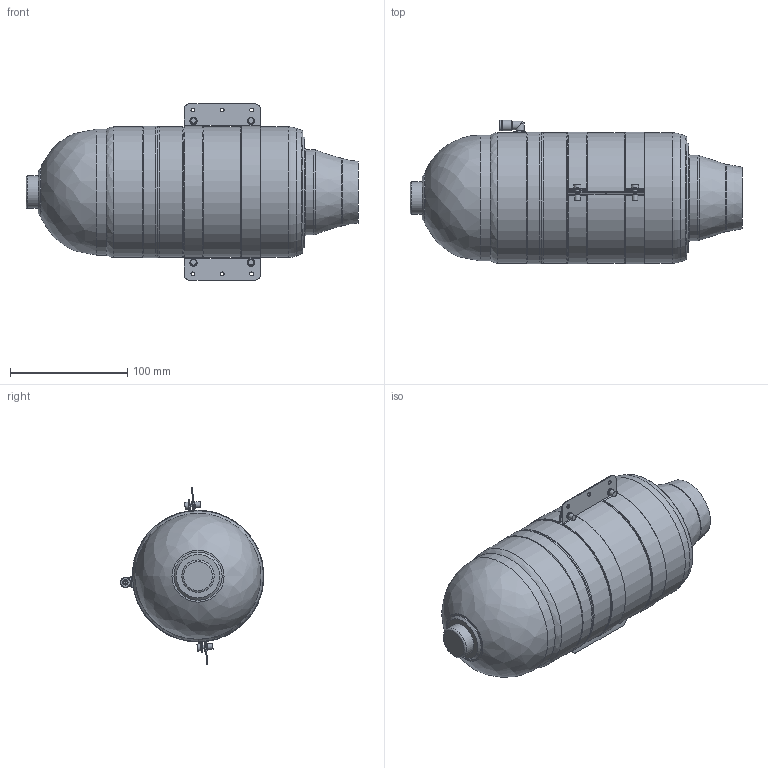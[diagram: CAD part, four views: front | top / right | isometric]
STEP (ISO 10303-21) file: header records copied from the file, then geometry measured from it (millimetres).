
FILE_DESCRIPTION(/* description */ (''),/* implementation_level */ '2;1');
FILE_NAME(/* name */ 'H20Pro1003_Obalka.step',/* time_stamp */ '2026-02-01T19:45:40+01:00',/* author */ (''),/* organization */ (''),/* preprocessor_version */ 'ST-DEVELOPER v20.1',/* originating_system */ 'Autodesk Translation Framework v14.24.0.0',/* authorisation */ '');
FILE_SCHEMA (('AUTOMOTIVE_DESIGN { 1 0 10303 214 3 1 1 }'));
Length unit declared in the file: millimetre
Products named in the file (1): 11-00-1003_motor_ATT75-H20
Bounding box: 282.69 x 122.25 x 150.18 mm (x, y, z)
Volume: 2179290.9 mm3; surface area: 106055.8 mm2
Topology: 1 solids, 1 shells, 195 faces, 483 edges, 311 vertices
Faces by surface type: cylinder 82, plane 66, cone 22, torus 20, bspline 4, sphere 1
Full cylindrical faces by diameter (mm): 3 x2, 3.2 x6, 3.5 x4, 4 x1, 4.8 x1, 4.83 x4, 6 x4, 6.2 x4, 6.83 x4, 7 x4, 7.2 x2, 9 x2, 27.6 x1, 41.047 x1, 72.6 x1, 107.065 x1, 110.7 x2, 111.165 x1, 111.2 x3, 112 x1
Entity records: 6279 total; most frequent: CARTESIAN_POINT 1379, DIRECTION 1129, ORIENTED_EDGE 962, EDGE_CURVE 481, AXIS2_PLACEMENT_3D 476, VERTEX_POINT 311, CIRCLE 274, EDGE_LOOP 242
